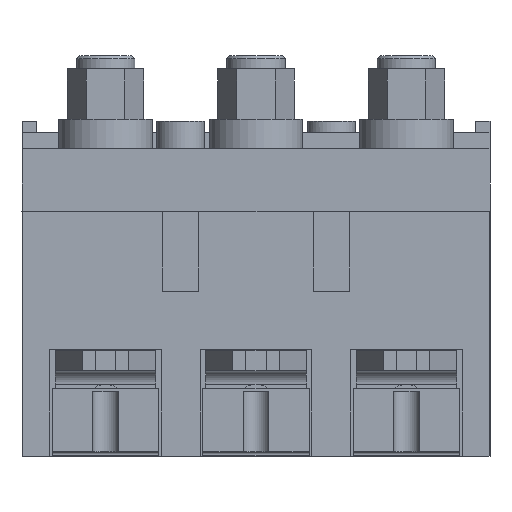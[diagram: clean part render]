
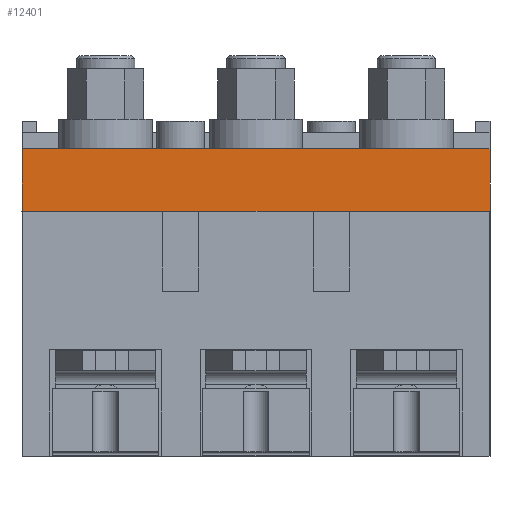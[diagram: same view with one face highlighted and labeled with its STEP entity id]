
A CAD part, front view. The second image highlights one B-rep face of the part: STEP entity #12401.
In plain terms, the highlighted planar face has unit normal (0, -1, 0).
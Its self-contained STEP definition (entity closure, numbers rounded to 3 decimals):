
#266 = DIRECTION ( 'NONE',  ( 1., 0., 0. ) ) ;
#412 = ORIENTED_EDGE ( 'NONE', *, *, #6639, .F. ) ;
#1054 = DIRECTION ( 'NONE',  ( 0., 0., -1. ) ) ;
#1574 = DIRECTION ( 'NONE',  ( 1., 0., 0. ) ) ;
#1630 = LINE ( 'NONE', #10790, #5075 ) ;
#1728 = VECTOR ( 'NONE', #1574, 1000. ) ;
#1872 = AXIS2_PLACEMENT_3D ( 'NONE', #12819, #6229, #12720 ) ;
#2450 = ORIENTED_EDGE ( 'NONE', *, *, #7895, .F. ) ;
#2707 = CARTESIAN_POINT ( 'NONE',  ( 70., -135.5, -8.1 ) ) ;
#3305 = ORIENTED_EDGE ( 'NONE', *, *, #4625, .T. ) ;
#3350 = VECTOR ( 'NONE', #5664, 1000. ) ;
#4625 = EDGE_CURVE ( 'NONE', #13174, #7361, #9636, .T. ) ;
#4727 = LINE ( 'NONE', #11029, #3350 ) ;
#4843 = CARTESIAN_POINT ( 'NONE',  ( -70., -135.5, -26.9 ) ) ;
#5075 = VECTOR ( 'NONE', #1054, 1000. ) ;
#5516 = VERTEX_POINT ( 'NONE', #2707 ) ;
#5664 = DIRECTION ( 'NONE',  ( 0., 0., -1. ) ) ;
#5763 = EDGE_CURVE ( 'NONE', #6358, #13174, #1630, .T. ) ;
#6229 = DIRECTION ( 'NONE',  ( 0., -1., 0. ) ) ;
#6358 = VERTEX_POINT ( 'NONE', #8528 ) ;
#6639 = EDGE_CURVE ( 'NONE', #6358, #5516, #8983, .T. ) ;
#6955 = CARTESIAN_POINT ( 'NONE',  ( -70., -135.5, -8.1 ) ) ;
#7252 = PLANE ( 'NONE',  #1872 ) ;
#7361 = VERTEX_POINT ( 'NONE', #11519 ) ;
#7895 = EDGE_CURVE ( 'NONE', #5516, #7361, #4727, .T. ) ;
#8187 = EDGE_LOOP ( 'NONE', ( #3305, #2450, #412, #12721 ) ) ;
#8528 = CARTESIAN_POINT ( 'NONE',  ( -70., -135.5, -8.1 ) ) ;
#8983 = LINE ( 'NONE', #6955, #12437 ) ;
#9636 = LINE ( 'NONE', #13494, #1728 ) ;
#10790 = CARTESIAN_POINT ( 'NONE',  ( -70., -135.5, -8.1 ) ) ;
#11029 = CARTESIAN_POINT ( 'NONE',  ( 70., -135.5, -8.1 ) ) ;
#11519 = CARTESIAN_POINT ( 'NONE',  ( 70., -135.5, -26.9 ) ) ;
#12401 = ADVANCED_FACE ( 'NONE', ( #13652 ), #7252, .T. ) ;
#12437 = VECTOR ( 'NONE', #266, 1000. ) ;
#12720 = DIRECTION ( 'NONE',  ( 0., 0., -1. ) ) ;
#12721 = ORIENTED_EDGE ( 'NONE', *, *, #5763, .T. ) ;
#12819 = CARTESIAN_POINT ( 'NONE',  ( -70., -135.5, -8.1 ) ) ;
#13174 = VERTEX_POINT ( 'NONE', #4843 ) ;
#13494 = CARTESIAN_POINT ( 'NONE',  ( -70., -135.5, -26.9 ) ) ;
#13652 = FACE_OUTER_BOUND ( 'NONE', #8187, .T. ) ;
